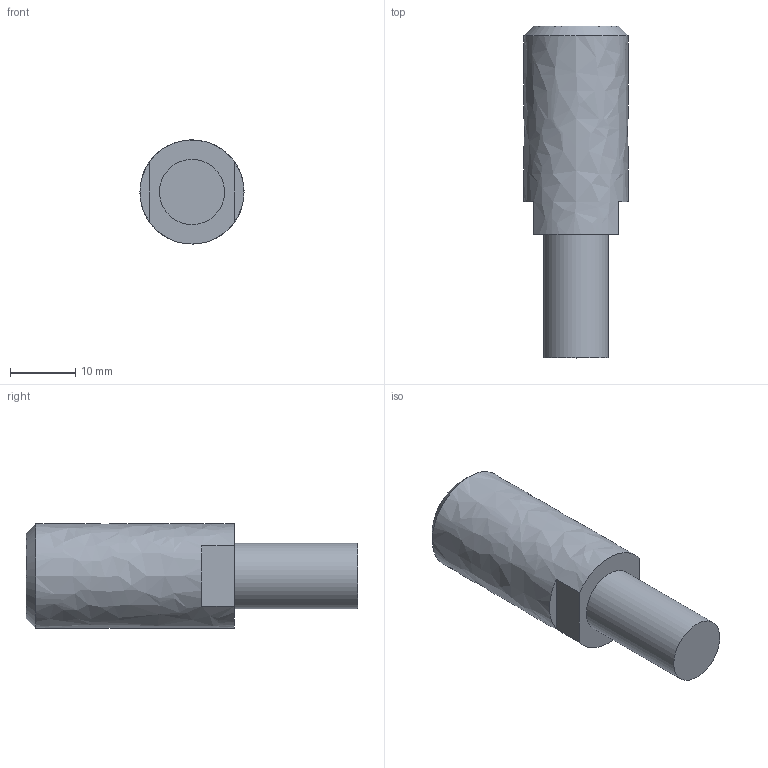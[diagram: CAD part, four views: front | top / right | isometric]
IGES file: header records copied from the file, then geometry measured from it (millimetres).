
Global section: file name: 1325_050_17F; native system: Autodesk Inventor 2014; preprocessor: unknown; author: A. Manieri; organization: Pneumax S.p.A.; date: 20161007.094012; units: millimetre
Bounding box: 16 x 51 x 16 mm (x, y, z)
Volume: 7778.5 mm3; surface area: 2554.3 mm2
Topology: 1 solids, 1 shells, 10 faces, 23 edges, 16 vertices
Faces by surface type: bspline 10
